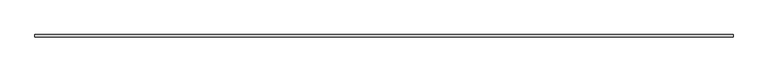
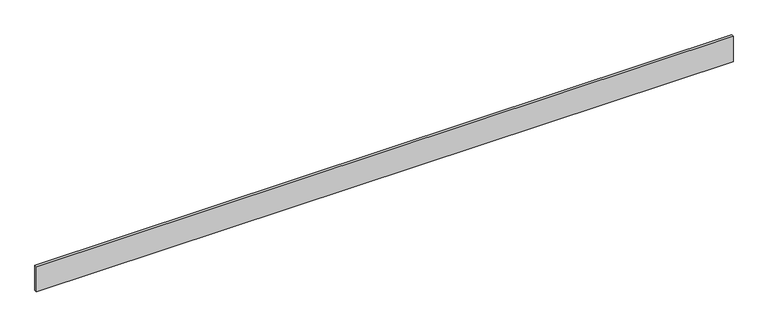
"""IFC4 building model written with IfcOpenShell, lengths in millimetres: beam geometry, Trus Joist - Rim Board Material : TJ® Rim Board – 11 7/8 x 1 1/8”."""

from ifc_helpers import new_model, si_unit, frame, origin, place, context, project, spatial, polyline, outline, extrude, source, transform, mapped, element, save


def beam_3a6fad84(model_context):
    return source(origin(), model_context, "Body", "SweptSolid", [
        extrude(outline(polyline([(3903.6625, 14.2875), (3903.6625, -14.2875), (-3948.1125, -14.2875), (-3948.1125, 14.2875), (3903.6625, 14.2875)])), frame((0.0, 0.0, -150.8125), z_axis=(0.0, 0.0, 1.0), x_axis=(1.0, 0.0, 0.0)), (0.0, 0.0, 1.0), 301.625),
    ])


if __name__ == "__main__":
    model = new_model("IFC4")
    model_context = context("Model", 3, world=origin())
    ifc_project = project(units=[si_unit("LENGTHUNIT", "METRE", prefix="MILLI")], contexts=[model_context])
    site = spatial("IfcSite", under=ifc_project)
    building = spatial("IfcBuilding", under=site)
    placement = place(None, origin())
    beam_shape = beam_3a6fad84(model_context)
    element("IfcBeam", 1, ObjectType="Trus Joist - Rim Board Material : TJ® Rim Board – 11 7/8 x 1 1/8”", at=placement, inside=building, context=model_context, shape_type="MappedRepresentation", body=[
        mapped(beam_shape, transform((0.0, 0.0, 0.0), x_axis=(1.0, 0.0, 0.0), y_axis=(0.0, 1.0, 0.0), z_axis=(0.0, 0.0, 1.0))),
    ])
    save(model, "model.ifc")
